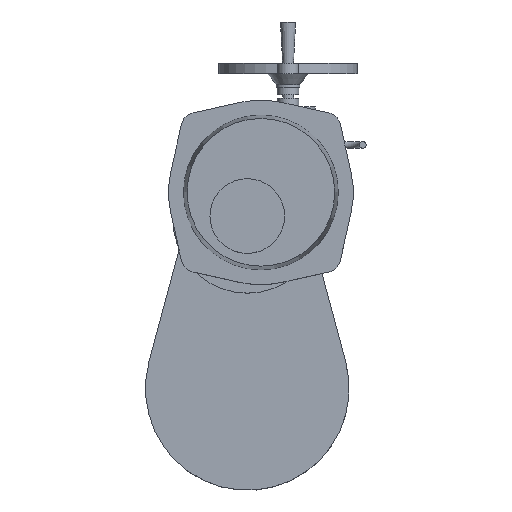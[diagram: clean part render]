
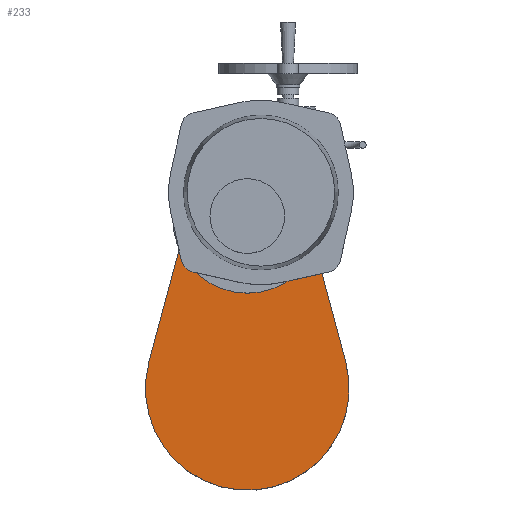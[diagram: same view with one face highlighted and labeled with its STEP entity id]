
A CAD part, top view. The second image highlights one B-rep face of the part: STEP entity #233.
In plain terms, the highlighted planar face has unit normal (0, 0, 1).
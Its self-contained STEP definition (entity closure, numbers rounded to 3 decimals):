
#233=ADVANCED_FACE('',(#1316),#1318,.F.);
#1316=FACE_BOUND('',#1317,.T.);
#1317=EDGE_LOOP('',(#2129,#2130,#2131,#2132,#2133));
#1318=PLANE('',#1319);
#1319=AXIS2_PLACEMENT_3D('',#1320,#1321,#1322);
#1320=CARTESIAN_POINT('',(0.,0.,-263.));
#1321=DIRECTION('',(0.,0.,-1.));
#1322=DIRECTION('',(0.,1.,0.));
#2129=ORIENTED_EDGE('',*,*,#2530,.T.);
#2130=ORIENTED_EDGE('',*,*,#2531,.T.);
#2131=ORIENTED_EDGE('',*,*,#2532,.F.);
#2132=ORIENTED_EDGE('',*,*,#2510,.F.);
#2133=ORIENTED_EDGE('',*,*,#2533,.F.);
#2510=EDGE_CURVE('',#2739,#2740,#2741,.T.);
#2530=EDGE_CURVE('',#2779,#2780,#2781,.F.);
#2531=EDGE_CURVE('',#2780,#2782,#2783,.F.);
#2532=EDGE_CURVE('',#2740,#2782,#2784,.T.);
#2533=EDGE_CURVE('',#2779,#2739,#2785,.T.);
#2739=VERTEX_POINT('',#3168);
#2740=VERTEX_POINT('',#3169);
#2741=CIRCLE('',#3170,150.);
#2779=VERTEX_POINT('',#3266);
#2780=VERTEX_POINT('',#3267);
#2781=CIRCLE('',#3268,85.);
#2782=VERTEX_POINT('',#3272);
#2783=CIRCLE('',#3273,85.);
#2784=LINE('',#3277,#3278);
#2785=LINE('',#3280,#3281);
#3168=CARTESIAN_POINT('',(124.841,-249.,-263.));
#3169=CARTESIAN_POINT('',(-164.841,-249.,-263.));
#3170=AXIS2_PLACEMENT_3D('',#3171,#3172,#3173);
#3171=CARTESIAN_POINT('',(-20.,-288.,-263.));
#3172=DIRECTION('',(0.,0.,-1.));
#3173=DIRECTION('',(0.966,0.26,0.));
#3266=CARTESIAN_POINT('',(62.077,-15.9,-263.));
#3267=CARTESIAN_POINT('',(-20.,-123.,-263.));
#3268=AXIS2_PLACEMENT_3D('',#3269,#3270,#3271);
#3269=CARTESIAN_POINT('',(-20.,-38.,-263.));
#3270=DIRECTION('',(0.,0.,1.));
#3271=DIRECTION('',(0.,-1.,0.));
#3272=CARTESIAN_POINT('',(-102.077,-15.9,-263.));
#3273=AXIS2_PLACEMENT_3D('',#3274,#3275,#3276);
#3274=CARTESIAN_POINT('',(-20.,-38.,-263.));
#3275=DIRECTION('',(0.,0.,1.));
#3276=DIRECTION('',(-0.966,0.26,0.));
#3277=CARTESIAN_POINT('',(-164.841,-249.,-263.));
#3278=VECTOR('',#3279,1.);
#3279=DIRECTION('',(0.26,0.966,0.));
#3280=CARTESIAN_POINT('',(62.077,-15.9,-263.));
#3281=VECTOR('',#3282,1.);
#3282=DIRECTION('',(0.26,-0.966,0.));
